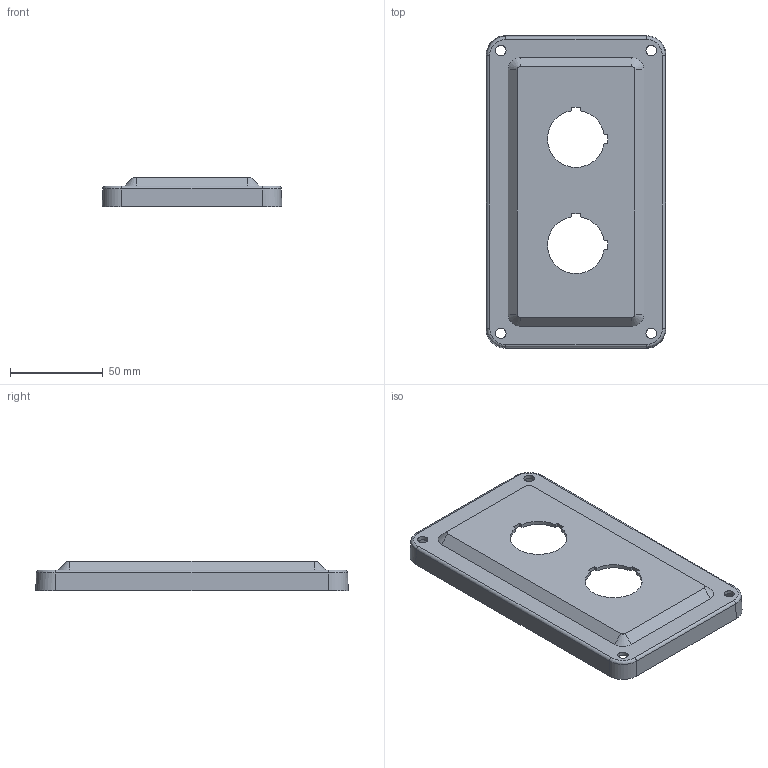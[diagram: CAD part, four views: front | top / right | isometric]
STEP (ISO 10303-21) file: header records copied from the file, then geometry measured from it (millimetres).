
FILE_DESCRIPTION(/* description */ (''),/* implementation_level */ '2;1');
FILE_NAME(/* name */ 'L:\CAD Inventor\Workspace\Catalogs\CATALOG-ACCESSORIES\OCA-2-30.stp',/* time_stamp */ '2021-12-06T12:53:51-06:00',/* author */ ('RSwans'),/* organization */ (''),/* preprocessor_version */ 'ST-DEVELOPER v16.5',/* originating_system */ 'Autodesk Inventor 2017',/* authorisation */ '');
FILE_SCHEMA (('AUTOMOTIVE_DESIGN { 1 0 10303 214 3 1 1 }'));
Length unit declared in the file: millimetre
Products named in the file (1): Z0004
Bounding box: 96.8 x 168.3 x 15.86 mm (x, y, z)
Volume: 39348.7 mm3; surface area: 40862.2 mm2
Topology: 1 solids, 1 shells, 65 faces, 176 edges, 116 vertices
Faces by surface type: plane 33, cylinder 20, cone 8, bspline 4
Full cylindrical faces by diameter (mm): 5.6 x4
Entity records: 2160 total; most frequent: CARTESIAN_POINT 462, DIRECTION 352, ORIENTED_EDGE 336, EDGE_CURVE 168, AXIS2_PLACEMENT_3D 122, VERTEX_POINT 112, LINE 108, VECTOR 108
